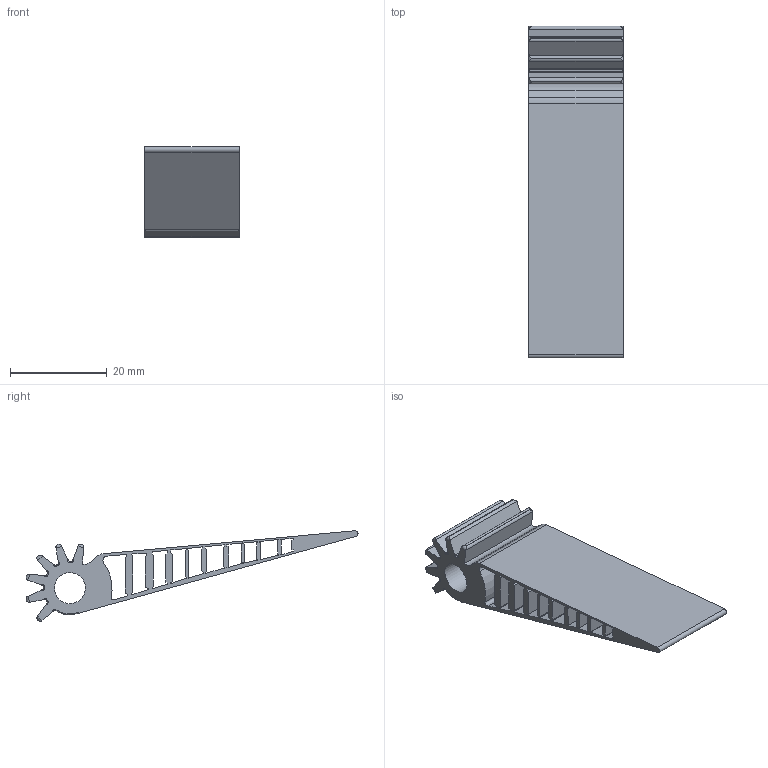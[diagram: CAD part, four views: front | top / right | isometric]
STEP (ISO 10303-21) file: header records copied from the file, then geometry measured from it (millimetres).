
FILE_DESCRIPTION(/* description */ ('STEP AP242 Edition 2','CAx-IF Rec.Pracs.---Representation and Presentation of Product Manufacturing Information (PMI)---4.0---2014-10-13','CAx-IF Rec.Pracs.---3D Tessellated Geometry---0.4---2014-09-14','2;1','CAx-IF Rec.Pracs.---User Defined Attributes---1.5---2016-08-15'),/* implementation_level */ '2;1');
FILE_NAME(/* name */ 'Assembly 1 - Finger (1)',/* time_stamp */ '2026-08-25T12:54:11Z',/* author */ (''),/* organization */ (''),/* preprocessor_version */ 'ST-DEVELOPER v20',/* originating_system */ 'ONSHAPE BY PTC INC, 1.219',/* authorisation */ ' ');
FILE_SCHEMA (('AP242_MANAGED_MODEL_BASED_3D_ENGINEERING_MIM_LF { 1 0 10303 442 3 1 4 }'));
Length unit declared in the file: metre
Products named in the file (1): Finger
Bounding box: 19.6 x 68.54 x 18.66 mm (x, y, z)
Volume: 5414.4 mm3; surface area: 8104.9 mm2
Topology: 1 solids, 1 shells, 222 faces, 636 edges, 416 vertices
Faces by surface type: plane 137, cylinder 48, torus 36, bspline 1
Full cylindrical faces by diameter (mm): 6.4 x1
Entity records: 7313 total; most frequent: CARTESIAN_POINT 1357, ORIENTED_EDGE 1270, DIRECTION 1209, EDGE_CURVE 635, LINE 453, VECTOR 453, VERTEX_POINT 416, AXIS2_PLACEMENT_3D 378
